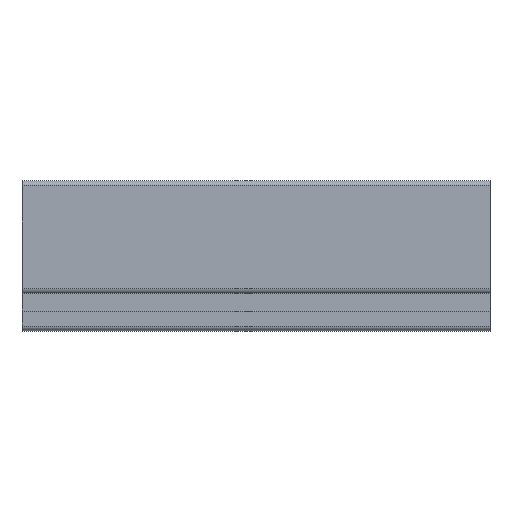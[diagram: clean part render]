
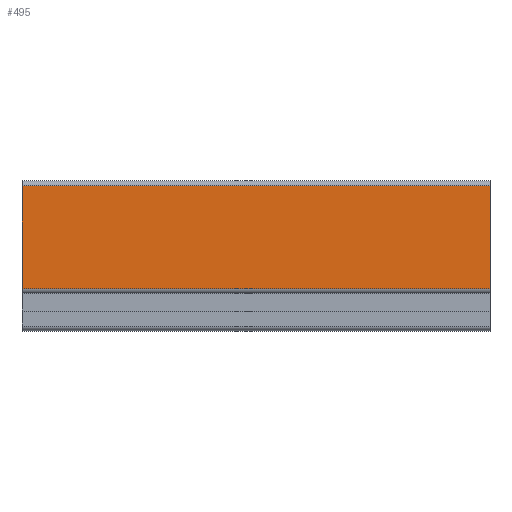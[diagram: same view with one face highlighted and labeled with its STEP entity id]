
A CAD part, top view. The second image highlights one B-rep face of the part: STEP entity #495.
In plain terms, the highlighted planar face has unit normal (0, 0, 1).
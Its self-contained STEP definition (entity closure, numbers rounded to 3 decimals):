
#11 = VERTEX_POINT ( 'NONE', #951 ) ;
#16 = VERTEX_POINT ( 'NONE', #682 ) ;
#78 = ORIENTED_EDGE ( 'NONE', *, *, #211, .F. ) ;
#111 = LINE ( 'NONE', #831, #1555 ) ;
#134 = CARTESIAN_POINT ( 'NONE',  ( -40.816, 47.398, 29.5 ) ) ;
#142 = EDGE_LOOP ( 'NONE', ( #1645, #708, #78, #1248 ) ) ;
#185 = VERTEX_POINT ( 'NONE', #1000 ) ;
#190 = EDGE_CURVE ( 'NONE', #11, #1604, #970, .T. ) ;
#211 = EDGE_CURVE ( 'NONE', #16, #185, #608, .T. ) ;
#212 = CARTESIAN_POINT ( 'NONE',  ( 59.184, 69.398, 29.5 ) ) ;
#275 = DIRECTION ( 'NONE',  ( 0., 0., -1. ) ) ;
#385 = VECTOR ( 'NONE', #1514, 1000. ) ;
#495 = ADVANCED_FACE ( 'NONE', ( #1682 ), #1712, .F. ) ;
#608 = LINE ( 'NONE', #212, #1601 ) ;
#611 = CARTESIAN_POINT ( 'NONE',  ( -40.816, 69.398, 29.5 ) ) ;
#624 = EDGE_CURVE ( 'NONE', #185, #1604, #111, .T. ) ;
#678 = CARTESIAN_POINT ( 'NONE',  ( 59.184, 69.398, 29.5 ) ) ;
#682 = CARTESIAN_POINT ( 'NONE',  ( 59.184, 69.398, 29.5 ) ) ;
#686 = CARTESIAN_POINT ( 'NONE',  ( 59.184, 69.398, 29.5 ) ) ;
#708 = ORIENTED_EDGE ( 'NONE', *, *, #624, .F. ) ;
#829 = DIRECTION ( 'NONE',  ( -1., 0., 0. ) ) ;
#831 = CARTESIAN_POINT ( 'NONE',  ( 59.184, 47.398, 29.5 ) ) ;
#833 = VECTOR ( 'NONE', #829, 1000. ) ;
#951 = CARTESIAN_POINT ( 'NONE',  ( -40.816, 69.398, 29.5 ) ) ;
#970 = LINE ( 'NONE', #611, #385 ) ;
#1000 = CARTESIAN_POINT ( 'NONE',  ( 59.184, 47.398, 29.5 ) ) ;
#1065 = AXIS2_PLACEMENT_3D ( 'NONE', #678, #275, #1573 ) ;
#1155 = DIRECTION ( 'NONE',  ( 0., -1., 0. ) ) ;
#1211 = LINE ( 'NONE', #686, #833 ) ;
#1248 = ORIENTED_EDGE ( 'NONE', *, *, #1709, .T. ) ;
#1480 = DIRECTION ( 'NONE',  ( -1., 0., 0. ) ) ;
#1514 = DIRECTION ( 'NONE',  ( 0., -1., 0. ) ) ;
#1555 = VECTOR ( 'NONE', #1480, 1000. ) ;
#1573 = DIRECTION ( 'NONE',  ( 0., 1., 0. ) ) ;
#1601 = VECTOR ( 'NONE', #1155, 1000. ) ;
#1604 = VERTEX_POINT ( 'NONE', #134 ) ;
#1645 = ORIENTED_EDGE ( 'NONE', *, *, #190, .T. ) ;
#1682 = FACE_OUTER_BOUND ( 'NONE', #142, .T. ) ;
#1709 = EDGE_CURVE ( 'NONE', #16, #11, #1211, .T. ) ;
#1712 = PLANE ( 'NONE',  #1065 ) ;
